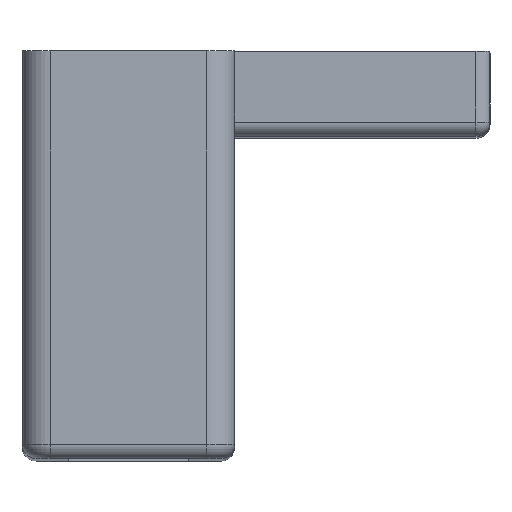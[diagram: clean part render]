
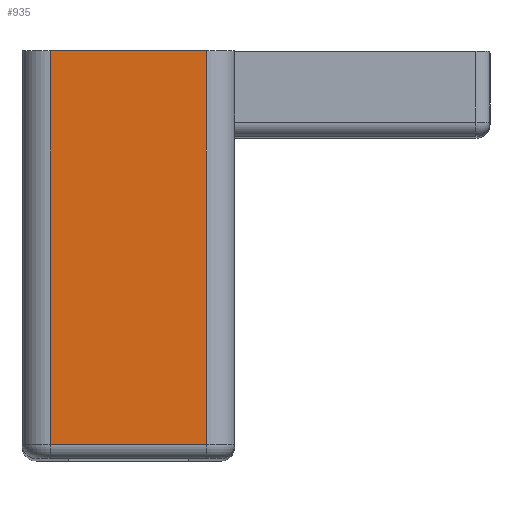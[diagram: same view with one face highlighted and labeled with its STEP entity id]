
A CAD part, top view. The second image highlights one B-rep face of the part: STEP entity #935.
In plain terms, the highlighted planar face has unit normal (0, 0, 1).
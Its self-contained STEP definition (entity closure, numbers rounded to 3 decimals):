
#215 = FACE_OUTER_BOUND ( 'NONE', #1157, .T. ) ;
#408 = ORIENTED_EDGE ( 'NONE', *, *, #1583, .F. ) ;
#409 = ORIENTED_EDGE ( 'NONE', *, *, #1584, .T. ) ;
#410 = ORIENTED_EDGE ( 'NONE', *, *, #1580, .T. ) ;
#411 = ORIENTED_EDGE ( 'NONE', *, *, #1649, .T. ) ;
#489 = DIRECTION ( 'NONE',  ( 0., 1., 0. ) ) ;
#490 = DIRECTION ( 'NONE',  ( 0., 0., -1. ) ) ;
#493 = PLANE ( 'NONE',  #1652 ) ;
#495 = CARTESIAN_POINT ( 'NONE',  ( 5.5, 0., 98.5 ) ) ;
#639 = CARTESIAN_POINT ( 'NONE',  ( -5.5, 1., 98.5 ) ) ;
#649 = CARTESIAN_POINT ( 'NONE',  ( -5.5, 28.75, 98.5 ) ) ;
#662 = CARTESIAN_POINT ( 'NONE',  ( 5.5, 28.75, 98.5 ) ) ;
#664 = CARTESIAN_POINT ( 'NONE',  ( 5.5, 1., 98.5 ) ) ;
#785 = CARTESIAN_POINT ( 'NONE',  ( 5.5, 0., 98.5 ) ) ;
#786 = DIRECTION ( 'NONE',  ( 0., 1., 0. ) ) ;
#792 = DIRECTION ( 'NONE',  ( 0., 1., 0. ) ) ;
#796 = CARTESIAN_POINT ( 'NONE',  ( -5.5, 0., 98.5 ) ) ;
#797 = CARTESIAN_POINT ( 'NONE',  ( 5.5, 1., 98.5 ) ) ;
#801 = DIRECTION ( 'NONE',  ( 1., 0., 0. ) ) ;
#892 = CARTESIAN_POINT ( 'NONE',  ( 5.5, 28.75, 98.5 ) ) ;
#893 = DIRECTION ( 'NONE',  ( -1., 0., 0. ) ) ;
#935 = ADVANCED_FACE ( 'NONE', ( #215 ), #493, .F. ) ;
#1000 = VERTEX_POINT ( 'NONE', #639 ) ;
#1031 = VERTEX_POINT ( 'NONE', #649 ) ;
#1046 = VERTEX_POINT ( 'NONE', #664 ) ;
#1053 = VERTEX_POINT ( 'NONE', #662 ) ;
#1157 = EDGE_LOOP ( 'NONE', ( #408, #409, #410, #411 ) ) ;
#1403 = VECTOR ( 'NONE', #801, 1000. ) ;
#1406 = VECTOR ( 'NONE', #792, 1000. ) ;
#1408 = LINE ( 'NONE', #796, #1406 ) ;
#1412 = VECTOR ( 'NONE', #786, 1000. ) ;
#1415 = LINE ( 'NONE', #797, #1403 ) ;
#1418 = LINE ( 'NONE', #785, #1412 ) ;
#1503 = VECTOR ( 'NONE', #893, 1000. ) ;
#1515 = LINE ( 'NONE', #892, #1503 ) ;
#1580 = EDGE_CURVE ( 'NONE', #1046, #1053, #1418, .T. ) ;
#1583 = EDGE_CURVE ( 'NONE', #1000, #1031, #1408, .T. ) ;
#1584 = EDGE_CURVE ( 'NONE', #1000, #1046, #1415, .T. ) ;
#1649 = EDGE_CURVE ( 'NONE', #1053, #1031, #1515, .T. ) ;
#1652 = AXIS2_PLACEMENT_3D ( 'NONE', #495, #490, #489 ) ;
